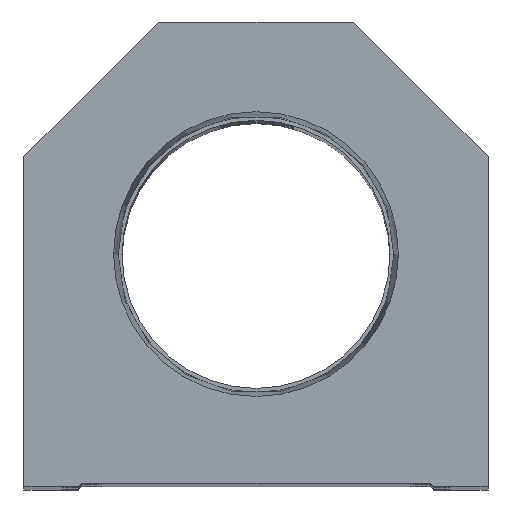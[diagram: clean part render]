
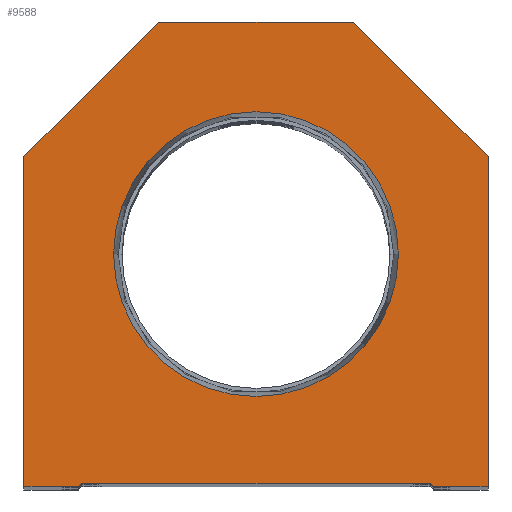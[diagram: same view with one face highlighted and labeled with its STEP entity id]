
A CAD part, top view. The second image highlights one B-rep face of the part: STEP entity #9588.
In plain terms, the highlighted planar face has unit normal (0, 0, 1).
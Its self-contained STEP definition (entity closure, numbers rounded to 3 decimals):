
#12 = CARTESIAN_POINT ( 'NONE',  ( 28.6, 0.5, 0. ) ) ;
#217 = CARTESIAN_POINT ( 'NONE',  ( -38.1, 54.1, 0. ) ) ;
#411 = CARTESIAN_POINT ( 'NONE',  ( -38.1, 0., 0. ) ) ;
#427 = ORIENTED_EDGE ( 'NONE', *, *, #9795, .T. ) ;
#594 = VERTEX_POINT ( 'NONE', #7529 ) ;
#848 = CARTESIAN_POINT ( 'NONE',  ( 29.1, 0., 0. ) ) ;
#889 = VECTOR ( 'NONE', #9359, 1000. ) ;
#1178 = DIRECTION ( 'NONE',  ( -0.707, 0.707, 0. ) ) ;
#1632 = VECTOR ( 'NONE', #15153, 1000. ) ;
#2056 = VERTEX_POINT ( 'NONE', #3215 ) ;
#2191 = VECTOR ( 'NONE', #16369, 1000. ) ;
#2274 = FACE_OUTER_BOUND ( 'NONE', #16555, .T. ) ;
#2355 = CARTESIAN_POINT ( 'NONE',  ( -38.1, 0., 0. ) ) ;
#2421 = CARTESIAN_POINT ( 'NONE',  ( 38.1, 54.1, 0. ) ) ;
#2837 = ORIENTED_EDGE ( 'NONE', *, *, #15437, .T. ) ;
#2850 = EDGE_CURVE ( 'NONE', #14234, #4986, #13165, .T. ) ;
#3138 = ORIENTED_EDGE ( 'NONE', *, *, #8674, .T. ) ;
#3215 = CARTESIAN_POINT ( 'NONE',  ( 38.1, 0., 0. ) ) ;
#3913 = DIRECTION ( 'NONE',  ( 1., 0., 0. ) ) ;
#3969 = CARTESIAN_POINT ( 'NONE',  ( -14.55, 14.55, 0. ) ) ;
#4026 = CARTESIAN_POINT ( 'NONE',  ( -29.1, 0., 0. ) ) ;
#4167 = EDGE_CURVE ( 'NONE', #16643, #2056, #11786, .T. ) ;
#4393 = ORIENTED_EDGE ( 'NONE', *, *, #9949, .T. ) ;
#4517 = ORIENTED_EDGE ( 'NONE', *, *, #17664, .F. ) ;
#4696 = ORIENTED_EDGE ( 'NONE', *, *, #13931, .T. ) ;
#4836 = ORIENTED_EDGE ( 'NONE', *, *, #7918, .T. ) ;
#4986 = VERTEX_POINT ( 'NONE', #4026 ) ;
#5083 = DIRECTION ( 'NONE',  ( 1., 0., 0. ) ) ;
#5114 = CARTESIAN_POINT ( 'NONE',  ( 0., 38.1, 0. ) ) ;
#5133 = CARTESIAN_POINT ( 'NONE',  ( -28.6, 0.5, 0. ) ) ;
#5141 = EDGE_LOOP ( 'NONE', ( #4517, #8591 ) ) ;
#5162 = LINE ( 'NONE', #3969, #8240 ) ;
#5726 = VERTEX_POINT ( 'NONE', #15724 ) ;
#5898 = DIRECTION ( 'NONE',  ( 0., 0., 1. ) ) ;
#6038 = CARTESIAN_POINT ( 'NONE',  ( 38.1, 0., 0. ) ) ;
#6419 = CARTESIAN_POINT ( 'NONE',  ( 0., 0., 0. ) ) ;
#6495 = EDGE_CURVE ( 'NONE', #594, #14234, #11730, .T. ) ;
#6572 = LINE ( 'NONE', #10881, #2191 ) ;
#6939 = CIRCLE ( 'NONE', #7510, 23.374 ) ;
#7047 = LINE ( 'NONE', #217, #1632 ) ;
#7510 = AXIS2_PLACEMENT_3D ( 'NONE', #8778, #5898, #14274 ) ;
#7529 = CARTESIAN_POINT ( 'NONE',  ( -38.1, 54.1, 0. ) ) ;
#7624 = VERTEX_POINT ( 'NONE', #14637 ) ;
#7776 = PLANE ( 'NONE',  #13995 ) ;
#7918 = EDGE_CURVE ( 'NONE', #4986, #7939, #5162, .T. ) ;
#7939 = VERTEX_POINT ( 'NONE', #9461 ) ;
#8182 = CARTESIAN_POINT ( 'NONE',  ( 14.55, 14.55, 0. ) ) ;
#8240 = VECTOR ( 'NONE', #13442, 1000. ) ;
#8591 = ORIENTED_EDGE ( 'NONE', *, *, #14252, .F. ) ;
#8674 = EDGE_CURVE ( 'NONE', #2056, #9346, #15486, .T. ) ;
#8778 = CARTESIAN_POINT ( 'NONE',  ( 0., 38.1, 0. ) ) ;
#8997 = DIRECTION ( 'NONE',  ( 0., 1., 0. ) ) ;
#9003 = DIRECTION ( 'NONE',  ( 1., 0., 0. ) ) ;
#9346 = VERTEX_POINT ( 'NONE', #16651 ) ;
#9359 = DIRECTION ( 'NONE',  ( 0.707, -0.707, 0. ) ) ;
#9434 = EDGE_CURVE ( 'NONE', #9346, #7624, #16098, .T. ) ;
#9461 = CARTESIAN_POINT ( 'NONE',  ( -28.6, 0.5, 0. ) ) ;
#9588 = ADVANCED_FACE ( 'NONE', ( #14626, #2274 ), #7776, .T. ) ;
#9625 = VECTOR ( 'NONE', #8997, 1000. ) ;
#9795 = EDGE_CURVE ( 'NONE', #14872, #594, #7047, .T. ) ;
#9870 = ORIENTED_EDGE ( 'NONE', *, *, #6495, .T. ) ;
#9949 = EDGE_CURVE ( 'NONE', #7624, #14872, #6572, .T. ) ;
#10071 = VERTEX_POINT ( 'NONE', #12 ) ;
#10242 = CARTESIAN_POINT ( 'NONE',  ( -16., 76.2, 0. ) ) ;
#10329 = CARTESIAN_POINT ( 'NONE',  ( 23.374, 38.1, 0. ) ) ;
#10436 = VECTOR ( 'NONE', #9003, 1000. ) ;
#10563 = DIRECTION ( 'NONE',  ( 1., 0., 0. ) ) ;
#10668 = DIRECTION ( 'NONE',  ( 0., 0., 1. ) ) ;
#10707 = CARTESIAN_POINT ( 'NONE',  ( 28.6, 0., 0. ) ) ;
#10751 = AXIS2_PLACEMENT_3D ( 'NONE', #5114, #10668, #3913 ) ;
#10799 = CARTESIAN_POINT ( 'NONE',  ( -28.6, 0., 0. ) ) ;
#10881 = CARTESIAN_POINT ( 'NONE',  ( 16., 76.2, 0. ) ) ;
#11001 = VECTOR ( 'NONE', #17169, 1000. ) ;
#11689 = LINE ( 'NONE', #5133, #11001 ) ;
#11730 = LINE ( 'NONE', #2355, #14220 ) ;
#11786 = LINE ( 'NONE', #10707, #10436 ) ;
#12490 = CIRCLE ( 'NONE', #10751, 23.374 ) ;
#12659 = ORIENTED_EDGE ( 'NONE', *, *, #4167, .T. ) ;
#12696 = VECTOR ( 'NONE', #5083, 1000. ) ;
#12791 = VERTEX_POINT ( 'NONE', #10329 ) ;
#13165 = LINE ( 'NONE', #10799, #12696 ) ;
#13442 = DIRECTION ( 'NONE',  ( 0.707, 0.707, 0. ) ) ;
#13931 = EDGE_CURVE ( 'NONE', #10071, #16643, #17614, .T. ) ;
#13995 = AXIS2_PLACEMENT_3D ( 'NONE', #6419, #17398, #10563 ) ;
#14220 = VECTOR ( 'NONE', #14701, 1000. ) ;
#14229 = ORIENTED_EDGE ( 'NONE', *, *, #9434, .T. ) ;
#14234 = VERTEX_POINT ( 'NONE', #411 ) ;
#14252 = EDGE_CURVE ( 'NONE', #5726, #12791, #6939, .T. ) ;
#14274 = DIRECTION ( 'NONE',  ( 1., 0., 0. ) ) ;
#14626 = FACE_BOUND ( 'NONE', #5141, .T. ) ;
#14637 = CARTESIAN_POINT ( 'NONE',  ( 16., 76.2, 0. ) ) ;
#14701 = DIRECTION ( 'NONE',  ( 0., -1., 0. ) ) ;
#14872 = VERTEX_POINT ( 'NONE', #10242 ) ;
#15153 = DIRECTION ( 'NONE',  ( -0.707, -0.707, 0. ) ) ;
#15437 = EDGE_CURVE ( 'NONE', #7939, #10071, #11689, .T. ) ;
#15486 = LINE ( 'NONE', #6038, #9625 ) ;
#15724 = CARTESIAN_POINT ( 'NONE',  ( -23.374, 38.1, 0. ) ) ;
#16098 = LINE ( 'NONE', #2421, #17129 ) ;
#16369 = DIRECTION ( 'NONE',  ( -1., 0., 0. ) ) ;
#16555 = EDGE_LOOP ( 'NONE', ( #16827, #4836, #2837, #4696, #12659, #3138, #14229, #4393, #427, #9870 ) ) ;
#16643 = VERTEX_POINT ( 'NONE', #848 ) ;
#16651 = CARTESIAN_POINT ( 'NONE',  ( 38.1, 54.1, 0. ) ) ;
#16827 = ORIENTED_EDGE ( 'NONE', *, *, #2850, .T. ) ;
#17129 = VECTOR ( 'NONE', #1178, 1000. ) ;
#17169 = DIRECTION ( 'NONE',  ( 1., 0., 0. ) ) ;
#17398 = DIRECTION ( 'NONE',  ( 0., 0., 1. ) ) ;
#17614 = LINE ( 'NONE', #8182, #889 ) ;
#17664 = EDGE_CURVE ( 'NONE', #12791, #5726, #12490, .T. ) ;
